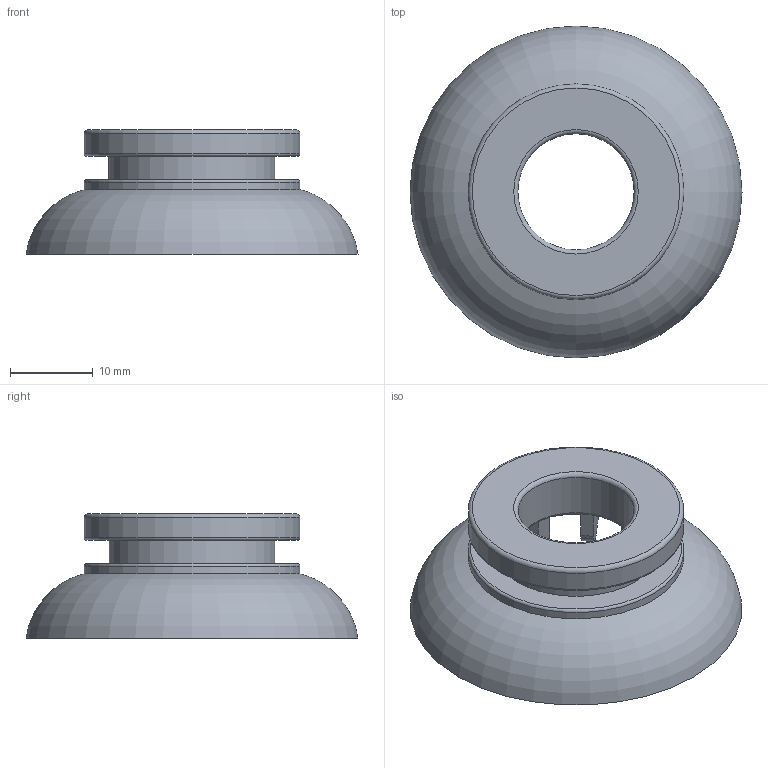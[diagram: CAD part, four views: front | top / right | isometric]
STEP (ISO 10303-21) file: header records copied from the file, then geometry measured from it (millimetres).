
FILE_DESCRIPTION( ( 'Unknown' ), '1' );
FILE_NAME( 'C:/Documents and Settings/茄惫春概平/官帕 拳搁/2010 VMECA 3D CAD/Vacuum Pad/KPS series/KPS 9.stp', 'Unknown', ( 'Unknown' ), ( 'Unknown' ), 'PSStep 10.0', 'Unknown', ' ' );
FILE_SCHEMA( ( 'automotive_design' ) );
Length unit declared in the file: millimetre
Products named in the file (1): 1
Bounding box: 40 x 40 x 15 mm (x, y, z)
Volume: 2952.7 mm3; surface area: 4755.3 mm2
Topology: 1 solids, 1 shells, 161 faces, 423 edges, 267 vertices
Faces by surface type: plane 81, cylinder 35, cone 18, torus 17, revolution 10
Full cylindrical faces by diameter (mm): 14 x1, 17 x1, 20 x1, 26 x2
Entity records: 6576 total; most frequent: CARTESIAN_POINT 1426, ORIENTED_EDGE 820, DIRECTION 780, EDGE_CURVE 410, AXIS2_PLACEMENT_3D 312, VERTEX_POINT 266, EDGE_LOOP 178, FACE_OUTER_BOUND 173
